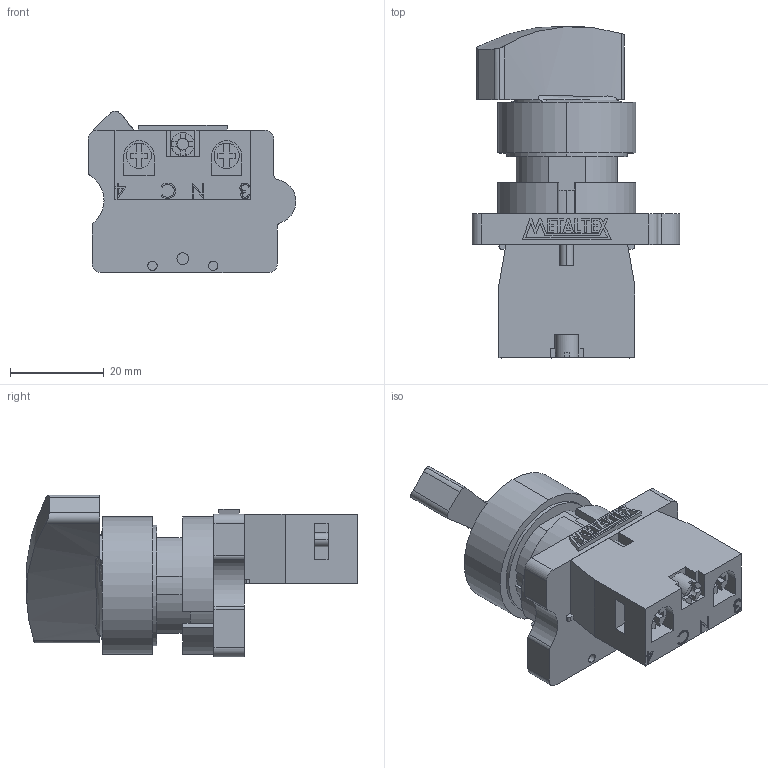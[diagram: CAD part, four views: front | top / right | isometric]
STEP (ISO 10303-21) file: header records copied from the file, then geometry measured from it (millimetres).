
FILE_DESCRIPTION (( 'STEP AP203' ), '1' );
FILE_NAME ('P20SL.STEP', '2018-01-17T14:05:24', ( '' ), ( '' ), 'SwSTEP 2.0', 'SolidWorks 2012', '' );
FILE_SCHEMA (( 'CONFIG_CONTROL_DESIGN' ));
Length unit declared in the file: millimetre
Products named in the file (4): P20SL-; M20-1A; METALTEX 18,98; P20SL
Assembly tree (3 placements, depth 2):
  P20SL
    P20SL-
    M20-1A
    METALTEX 18,98
Bounding box: 44.44 x 71 x 34.54 mm (x, y, z)
Volume: 35025 mm3; surface area: 13072.4 mm2
Topology: 9 solids, 9 shells, 381 faces, 999 edges, 662 vertices
Faces by surface type: plane 262, cylinder 81, bspline 34, torus 4
Entity records: 14388 total; most frequent: CARTESIAN_POINT 4638, ORIENTED_EDGE 1998, DIRECTION 1820, EDGE_CURVE 999, LINE 714, VECTOR 714, VERTEX_POINT 662, AXIS2_PLACEMENT_3D 553
